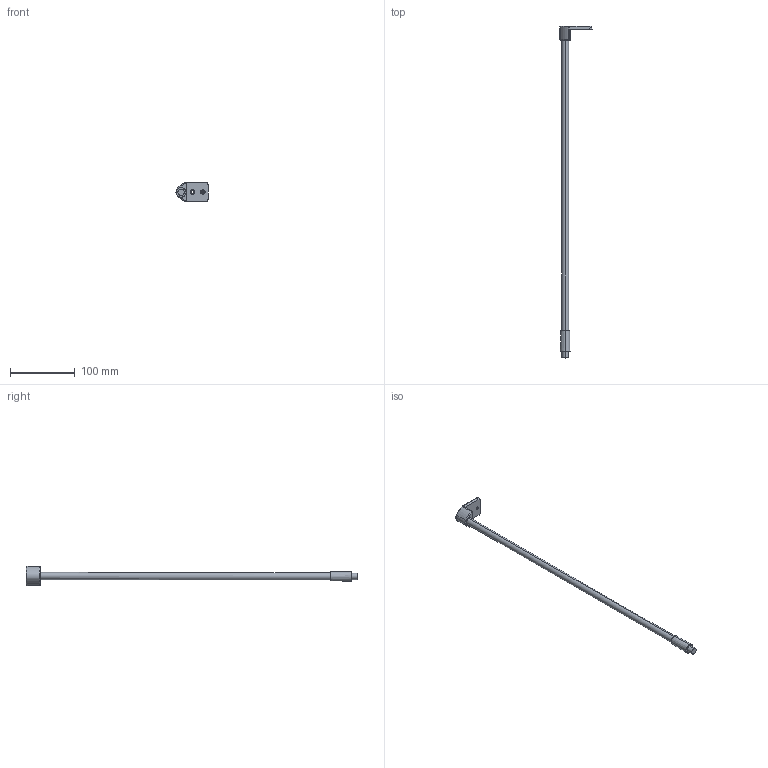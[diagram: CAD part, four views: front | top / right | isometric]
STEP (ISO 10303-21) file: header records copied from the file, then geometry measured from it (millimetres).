
FILE_DESCRIPTION (( 'STEP AP214' ), '1' );
FILE_NAME ('_2S_RUL_7107_NL500_LI.step', '2010-06-29T14:08:30', ( 'grass' ), ( '' ), 'SwSTEP 2.0', 'SolidWorks 2009', '' );
FILE_SCHEMA (( 'AUTOMOTIVE_DESIGN' ));
Length unit declared in the file: millimetre
Products named in the file (1): _2S_RUL_7107_NL500_LI
Bounding box: 49.5 x 513 x 30 mm (x, y, z)
Volume: 58995.3 mm3; surface area: 22339.9 mm2
Topology: 1 solids, 1 shells, 89 faces, 203 edges, 118 vertices
Faces by surface type: cylinder 32, plane 17, torus 16, bspline 16, cone 6, sphere 2
Entity records: 4566 total; most frequent: CARTESIAN_POINT 2608, DIRECTION 411, ORIENTED_EDGE 402, EDGE_CURVE 201, AXIS2_PLACEMENT_3D 172, VERTEX_POINT 118, CIRCLE 98, EDGE_LOOP 97
